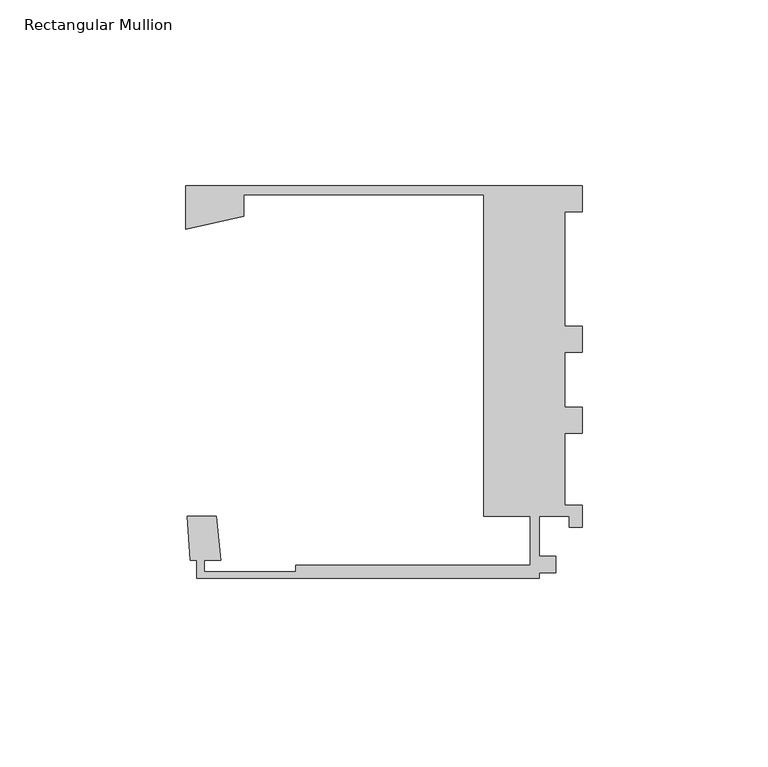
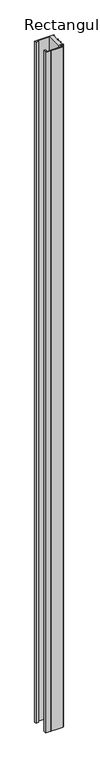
"""IFC4 building model written with IfcOpenShell, lengths in millimetres: member geometry, Rectangular Mullion : Danpal_Airpt_End-Mullion_B1."""

from ifc_helpers import new_model, si_unit, frame, origin, place, context, project, spatial, polyline, outline, extrude, source, transform, mapped, element, save


def rectangular_mullion_ccd2dda7(model_context):
    return source(origin(), model_context, "Body", "SweptSolid", [
        extrude(outline(polyline([(-11.6055875, -92.6094337), (-103.8999976, -92.6094337), (-103.8999976, -87.7698451), (-105.6776694, -87.7698451), (-106.4274982, -75.8596534), (-98.5693208, -75.8596534), (-97.4384397, -87.7698451), (-101.8999976, -87.7698451), (-101.8999976, -90.8094336), (-77.1531178, -90.8094336), (-77.1531178, -89.1094336), (-14.1055875, -89.1094336), (-14.1055875, -75.8596534), (-26.6209612, -75.8596534), (-26.6209612, 10.6837558), (-91.2900275, 10.6837558), (-91.2900275, 4.9090081), (-106.8892292, 1.4378016), (-106.8892292, 13.1837558), (0.0, 13.1837558), (0.0, 6.1837558), (-4.8, 6.1837558), (-4.8, -24.6595054), (0.0, -24.6595054), (0.0, -31.6595227), (-4.8, -31.6595227), (-4.8, -46.4688518), (0.0, -46.4688518), (0.0, -53.4688518), (-4.8, -53.4688518), (-4.8, -72.9077707), (0.0, -72.9077707), (0.0, -78.8594337), (-3.5072447, -78.8594337), (-3.5072447, -75.8594337), (-11.6055875, -75.8594337), (-11.6055875, -86.6049249), (-7.1518595, -86.6049249), (-7.1518595, -91.1094337), (-11.6055875, -91.1094337), (-11.6055875, -92.6094337)])), frame((0.0, 0.0, -4000.0), z_axis=(0.0, 0.0, 1.0), x_axis=(1.0, 0.0, 0.0)), (0.0, 0.0, 1.0), 4000.0),
    ])


if __name__ == "__main__":
    model = new_model("IFC4")
    model_context = context("Model", 3, world=origin())
    ifc_project = project(units=[si_unit("LENGTHUNIT", "METRE", prefix="MILLI")], contexts=[model_context])
    site = spatial("IfcSite", under=ifc_project)
    building = spatial("IfcBuilding", under=site)
    placement = place(None, origin())
    rectangular_mullion_shape = rectangular_mullion_ccd2dda7(model_context)
    element("IfcMember", 1, ObjectType="Rectangular Mullion : Danpal_Airpt_End-Mullion_B1", at=placement, inside=building, context=model_context, shape_type="MappedRepresentation", body=[
        mapped(rectangular_mullion_shape, transform((0.0, 0.0, 0.0), x_axis=(1.0, 0.0, 0.0), y_axis=(0.0, 1.0, 0.0), z_axis=(0.0, 0.0, 1.0))),
    ])
    save(model, "model.ifc")
